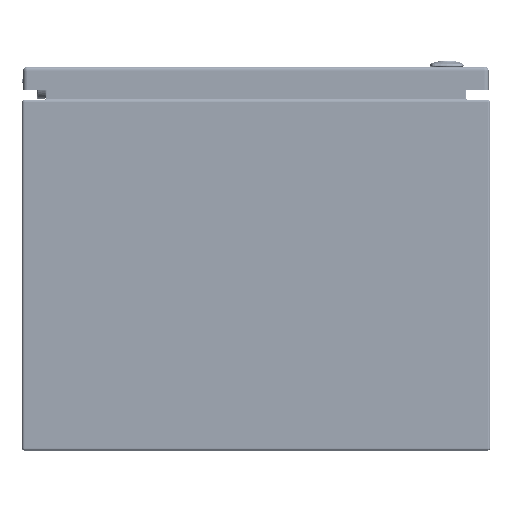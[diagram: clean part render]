
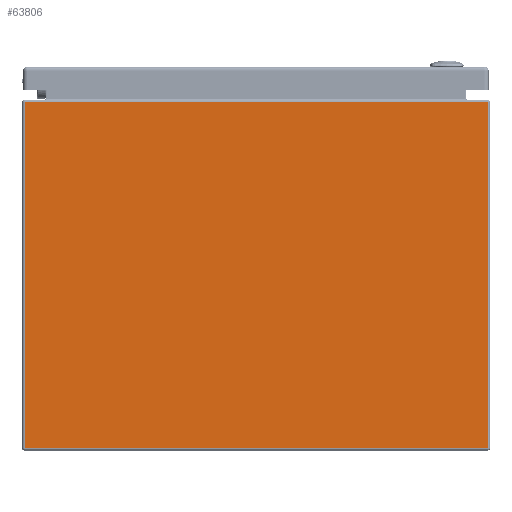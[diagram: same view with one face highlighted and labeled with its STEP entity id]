
A CAD part, front view. The second image highlights one B-rep face of the part: STEP entity #63806.
In plain terms, the highlighted planar face has unit normal (0, -1, 0).
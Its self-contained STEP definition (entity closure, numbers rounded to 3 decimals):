
#6080=LINE('',#90102,#10046);
#6087=LINE('',#90117,#10053);
#6089=LINE('',#90124,#10055);
#6091=LINE('',#90133,#10057);
#10046=VECTOR('',#74594,0.394);
#10053=VECTOR('',#74607,0.394);
#10055=VECTOR('',#74615,0.394);
#10057=VECTOR('',#74627,0.394);
#15070=FACE_OUTER_BOUND('',#19062,.T.);
#19062=EDGE_LOOP('',(#42505,#42506,#42507,#42508));
#25742=VERTEX_POINT('',#90072);
#25749=VERTEX_POINT('',#90098);
#25754=VERTEX_POINT('',#90116);
#25756=VERTEX_POINT('',#90122);
#32176=EDGE_CURVE('',#25742,#25749,#6080,.T.);
#32183=EDGE_CURVE('',#25749,#25754,#6087,.T.);
#32187=EDGE_CURVE('',#25756,#25742,#6089,.T.);
#32192=EDGE_CURVE('',#25756,#25754,#6091,.T.);
#42505=ORIENTED_EDGE('',*,*,#32176,.F.);
#42506=ORIENTED_EDGE('',*,*,#32187,.F.);
#42507=ORIENTED_EDGE('',*,*,#32192,.T.);
#42508=ORIENTED_EDGE('',*,*,#32183,.F.);
#62425=PLANE('',#68698);
#63806=ADVANCED_FACE('',(#15070),#62425,.F.);
#68698=AXIS2_PLACEMENT_3D('',#90144,#74641,#74642);
#74594=DIRECTION('',(1.,0.,0.));
#74607=DIRECTION('',(0.,0.,-1.));
#74615=DIRECTION('',(0.,0.,1.));
#74627=DIRECTION('',(1.,0.,0.));
#74641=DIRECTION('center_axis',(0.,1.,0.));
#74642=DIRECTION('ref_axis',(0.,0.,1.));
#90072=CARTESIAN_POINT('',(-7.916,-10.,11.916));
#90098=CARTESIAN_POINT('',(7.916,-10.,11.916));
#90102=CARTESIAN_POINT('',(3.979,-10.,11.916));
#90116=CARTESIAN_POINT('',(7.916,-10.,0.084));
#90117=CARTESIAN_POINT('',(7.916,-10.,6.));
#90122=CARTESIAN_POINT('',(-7.916,-10.,0.084));
#90124=CARTESIAN_POINT('',(-7.916,-10.,6.));
#90133=CARTESIAN_POINT('',(-3.958,-10.,0.084));
#90144=CARTESIAN_POINT('Origin',(0.,-10.,6.));
